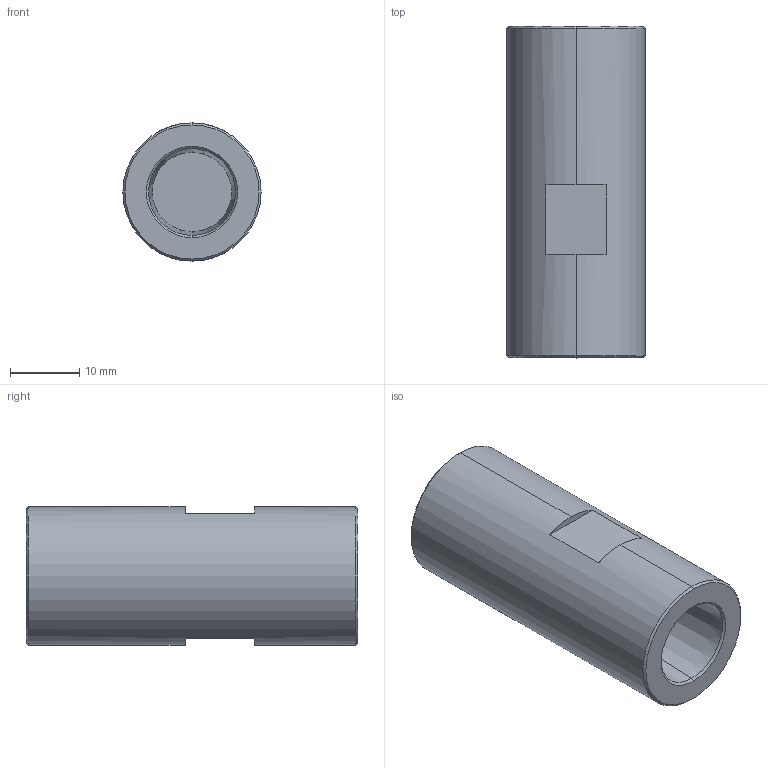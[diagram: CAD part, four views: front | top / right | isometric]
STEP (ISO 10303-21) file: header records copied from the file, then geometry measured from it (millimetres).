
FILE_DESCRIPTION (( 'STEP AP203' ), '1' );
FILE_NAME ('SW-PN-Y10.STEP', '2022-04-04T04:52:18', ( '' ), ( '' ), 'SwSTEP 2.0', 'SolidWorks 2015', '' );
FILE_SCHEMA (( 'CONFIG_CONTROL_DESIGN' ));
Length unit declared in the file: millimetre
Products named in the file (2): SW-PN-Y10
Bounding box: 20 x 48 x 20 mm (x, y, z)
Volume: 11343.2 mm3; surface area: 4971.6 mm2
Topology: 1 solids, 1 shells, 22 faces, 48 edges, 30 vertices
Faces by surface type: plane 10, cone 8, cylinder 4
Entity records: 765 total; most frequent: DIRECTION 122, CARTESIAN_POINT 102, ORIENTED_EDGE 96, AXIS2_PLACEMENT_3D 50, EDGE_CURVE 48, VERTEX_POINT 30, CIRCLE 26, EDGE_LOOP 24
